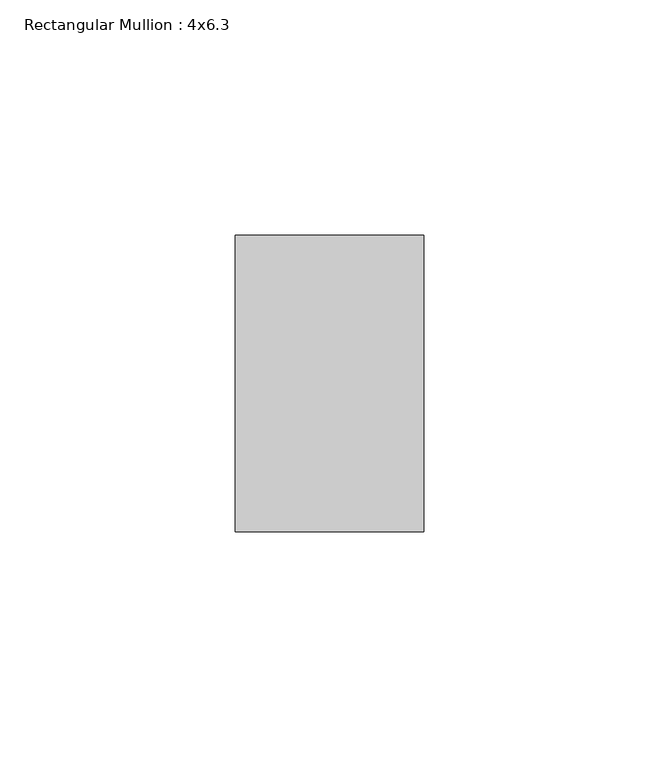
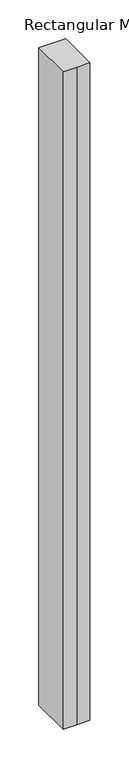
"""IFC4 building model written with IfcOpenShell, lengths in millimetres: member geometry, Rectangular Mullion : 4x6.3."""

from ifc_helpers import new_model, si_unit, frame, origin, place, context, project, spatial, polyline, outline, extrude, source, transform, mapped, element, save


def rectangular_mullion_4x6_3_e617932f(model_context):
    return source(origin(), model_context, "Body", "SweptSolid", [
        extrude(outline(polyline([(-20.0, 20.0), (-20.0, 83.0), (20.0, 83.0), (20.0, 20.0), (0.0, 20.0), (-20.0, 20.0)])), frame((0.0, 0.0, -1036.1433181), z_axis=(0.0, 0.0, 1.0), x_axis=(1.0, 0.0, 0.0)), (0.0, 0.0, 1.0), 1036.1433181),
    ])


if __name__ == "__main__":
    model = new_model("IFC4")
    model_context = context("Model", 3, world=origin())
    ifc_project = project(units=[si_unit("LENGTHUNIT", "METRE", prefix="MILLI")], contexts=[model_context])
    site = spatial("IfcSite", under=ifc_project)
    building = spatial("IfcBuilding", under=site)
    placement = place(None, origin())
    rectangular_mullion_4x6_3_shape = rectangular_mullion_4x6_3_e617932f(model_context)
    element("IfcMember", 1, ObjectType="Rectangular Mullion : 4x6.3", at=placement, inside=building, context=model_context, shape_type="MappedRepresentation", body=[
        mapped(rectangular_mullion_4x6_3_shape, transform((0.0, 0.0, 0.0), x_axis=(1.0, 0.0, 0.0), y_axis=(0.0, 1.0, 0.0), z_axis=(0.0, 0.0, 1.0))),
    ])
    save(model, "model.ifc")
